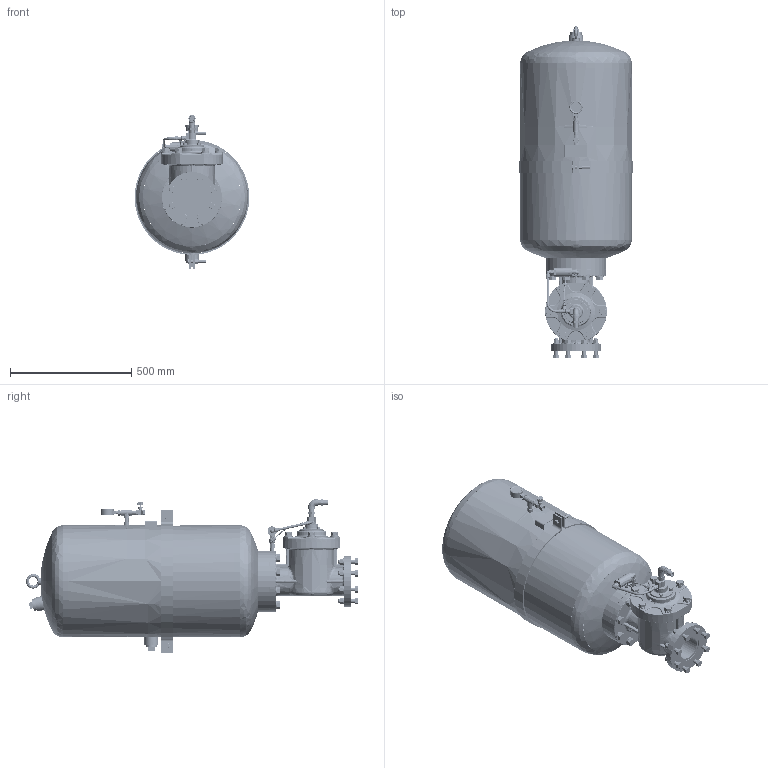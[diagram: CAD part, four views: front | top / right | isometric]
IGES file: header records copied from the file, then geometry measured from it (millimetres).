
Start section: SolidWorks IGES file using analytic representation for surfaces
Global section: file name: V:\WORK\08133\HP Defeature\blaster\EDB4-130A\IGS_STEP僼傽僀儖\EDB4-130A.IGS; native system: SolidWorks 2022; preprocessor: SolidWorks 2022; author: n-udagawa; date: 250422.104206; units: millimetre
Bounding box: 473 x 1369.72 x 634 mm (x, y, z)
Surface area: 2165684.8 mm2 (no closed solid volume)
Topology: 0 solids, 0 shells, 2203 faces, 33033 edges, 32998 vertices
Faces by surface type: bspline 1138, revolution 1065
